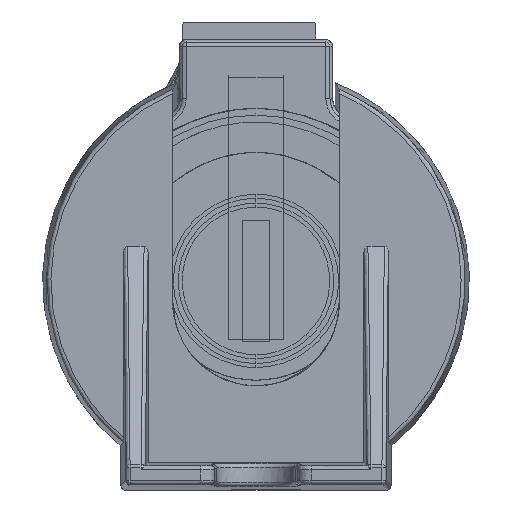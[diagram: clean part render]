
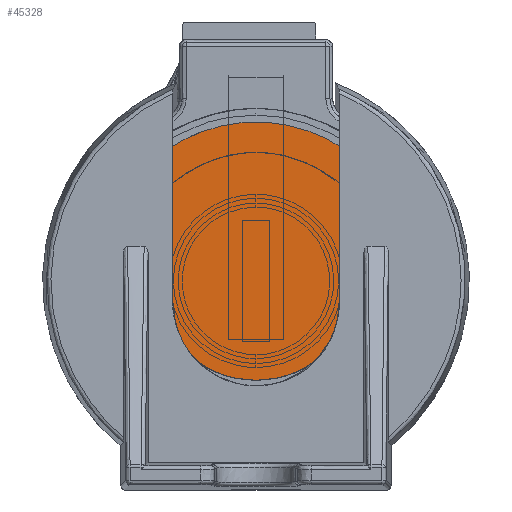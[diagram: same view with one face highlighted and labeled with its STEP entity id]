
A CAD part, left-side view. The second image highlights one B-rep face of the part: STEP entity #45328.
In plain terms, the highlighted free-form (B-spline) face has degree [3, 3] with [4, 4] control points.
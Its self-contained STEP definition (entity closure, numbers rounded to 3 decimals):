
#8392=CARTESIAN_POINT('',(9.38,0.,2.7));
#8393=CARTESIAN_POINT('',(9.38,-0.377,2.695));
#8394=CARTESIAN_POINT('',(9.38,-1.138,2.732));
#8395=CARTESIAN_POINT('',(9.38,-2.323,2.925));
#8396=CARTESIAN_POINT('',(9.38,-3.567,3.254));
#8397=CARTESIAN_POINT('',(9.38,-4.884,3.713));
#8398=CARTESIAN_POINT('',(9.38,-6.064,4.274));
#8399=CARTESIAN_POINT('',(9.38,-7.137,4.932));
#8400=CARTESIAN_POINT('',(9.38,-8.136,5.683));
#8401=CARTESIAN_POINT('',(9.38,-9.356,6.792));
#8402=CARTESIAN_POINT('',(9.38,-10.644,8.345));
#8403=CARTESIAN_POINT('',(9.38,-11.775,10.411));
#8404=CARTESIAN_POINT('',(9.38,-12.572,12.899));
#8405=CARTESIAN_POINT('',(9.38,-12.794,14.986));
#8406=CARTESIAN_POINT('',(9.38,-12.71,16.696));
#8407=CARTESIAN_POINT('',(9.38,-12.508,17.99));
#8408=CARTESIAN_POINT('',(9.38,-12.162,19.287));
#8409=CARTESIAN_POINT('',(9.38,-11.673,20.578));
#8410=CARTESIAN_POINT('',(9.38,-11.108,21.708));
#8411=CARTESIAN_POINT('',(9.38,-10.445,22.739));
#8412=CARTESIAN_POINT('',(9.38,-9.664,23.729));
#8413=CARTESIAN_POINT('',(9.38,-8.775,24.644));
#8414=CARTESIAN_POINT('',(9.38,-7.967,25.368));
#8415=CARTESIAN_POINT('',(9.38,-7.079,26.008));
#8416=CARTESIAN_POINT('',(9.38,-5.952,26.671));
#8417=CARTESIAN_POINT('',(9.38,-4.716,27.261));
#8418=CARTESIAN_POINT('',(9.38,-3.502,27.683));
#8419=CARTESIAN_POINT('',(9.38,-2.509,27.921));
#8420=CARTESIAN_POINT('',(9.38,-1.725,28.059));
#8421=CARTESIAN_POINT('',(9.38,-1.143,28.135));
#8422=CARTESIAN_POINT('',(9.38,-0.567,28.184));
#8423=CARTESIAN_POINT('',(9.38,-0.188,28.198));
#8424=CARTESIAN_POINT('',(9.38,0.,28.2));
#8426=CARTESIAN_POINT('',(9.38,0.,28.2));
#8427=CARTESIAN_POINT('',(9.38,0.188,28.202));
#8428=CARTESIAN_POINT('',(9.38,0.567,28.196));
#8429=CARTESIAN_POINT('',(9.38,1.144,28.151));
#8430=CARTESIAN_POINT('',(9.38,1.731,28.071));
#8431=CARTESIAN_POINT('',(9.38,2.33,27.958));
#8432=CARTESIAN_POINT('',(9.38,2.945,27.811));
#8433=CARTESIAN_POINT('',(9.38,3.787,27.57));
#8434=CARTESIAN_POINT('',(9.38,4.884,27.187));
#8435=CARTESIAN_POINT('',(9.38,6.064,26.626));
#8436=CARTESIAN_POINT('',(9.38,7.137,25.968));
#8437=CARTESIAN_POINT('',(9.38,8.136,25.217));
#8438=CARTESIAN_POINT('',(9.38,9.051,24.385));
#8439=CARTESIAN_POINT('',(9.38,9.871,23.487));
#8440=CARTESIAN_POINT('',(9.38,10.833,22.21));
#8441=CARTESIAN_POINT('',(9.38,11.775,20.489));
#8442=CARTESIAN_POINT('',(9.38,12.572,18.001));
#8443=CARTESIAN_POINT('',(9.38,12.794,15.914));
#8444=CARTESIAN_POINT('',(9.38,12.71,14.204));
#8445=CARTESIAN_POINT('',(9.38,12.508,12.91));
#8446=CARTESIAN_POINT('',(9.38,12.162,11.613));
#8447=CARTESIAN_POINT('',(9.38,11.673,10.322));
#8448=CARTESIAN_POINT('',(9.38,11.108,9.192));
#8449=CARTESIAN_POINT('',(9.38,10.445,8.161));
#8450=CARTESIAN_POINT('',(9.38,9.664,7.171));
#8451=CARTESIAN_POINT('',(9.38,8.775,6.256));
#8452=CARTESIAN_POINT('',(9.38,7.967,5.532));
#8453=CARTESIAN_POINT('',(9.38,6.783,4.679));
#8454=CARTESIAN_POINT('',(9.38,4.705,3.556));
#8455=CARTESIAN_POINT('',(9.38,2.299,2.878));
#8456=CARTESIAN_POINT('',(9.38,0.753,2.71));
#8457=CARTESIAN_POINT('',(9.38,0.,2.7));
#10863=VERTEX_POINT('',#8392);
#10864=VERTEX_POINT('',#8424);
#45307=CARTESIAN_POINT('',(9.38,13.261,2.19));
#45308=CARTESIAN_POINT('',(9.38,4.42,2.19));
#45309=CARTESIAN_POINT('',(9.38,-4.42,2.19));
#45310=CARTESIAN_POINT('',(9.38,-13.261,2.19));
#45311=CARTESIAN_POINT('',(9.38,13.261,11.03));
#45312=CARTESIAN_POINT('',(9.38,4.42,11.03));
#45313=CARTESIAN_POINT('',(9.38,-4.42,11.03));
#45314=CARTESIAN_POINT('',(9.38,-13.261,11.03));
#45315=CARTESIAN_POINT('',(9.38,13.261,19.87));
#45316=CARTESIAN_POINT('',(9.38,4.42,19.87));
#45317=CARTESIAN_POINT('',(9.38,-4.42,19.87));
#45318=CARTESIAN_POINT('',(9.38,-13.261,19.87));
#45319=CARTESIAN_POINT('',(9.38,13.261,28.71));
#45320=CARTESIAN_POINT('',(9.38,4.42,28.71));
#45321=CARTESIAN_POINT('',(9.38,-4.42,28.71));
#45322=CARTESIAN_POINT('',(9.38,-13.261,28.71));
#45323=B_SPLINE_SURFACE_WITH_KNOTS('',3,3,((#45307,#45308,#45309,#45310),
(#45311,#45312,#45313,#45314),(#45315,#45316,#45317,#45318),(#45319,#45320,
#45321,#45322)),.UNSPECIFIED.,.F.,.F.,.F.,(4,4),(4,4),(-13.26,
13.26),(-13.261,13.261),.UNSPECIFIED.);
#45324=ORIENTED_EDGE('',*,*,#45301,.F.);
#45325=ORIENTED_EDGE('',*,*,#45117,.F.);
#45326=EDGE_LOOP('',(#45324,#45325));
#45327=FACE_OUTER_BOUND('',#45326,.F.);
#45328=ADVANCED_FACE('',(#45327),#45323,.F.);
#8425=B_SPLINE_CURVE_WITH_KNOTS('',3,(#8392,#8393,#8394,#8395,#8396,#8397,#8398,
#8399,#8400,#8401,#8402,#8403,#8404,#8405,#8406,#8407,#8408,#8409,#8410,#8411,
#8412,#8413,#8414,#8415,#8416,#8417,#8418,#8419,#8420,#8421,#8422,#8423,#8424),
.UNSPECIFIED.,.F.,.F.,(4,1,1,1,1,1,1,1,1,1,1,1,1,1,1,1,1,1,1,1,1,1,1,1,1,1,1,1,
1,1,4),(0.,0.031,0.063,0.094,0.125,0.156,0.188,0.219,
0.25,0.313,0.375,0.438,0.5,0.531,0.563,0.594,0.625,
0.656,0.688,0.719,0.75,0.781,0.813,0.844,0.875,
0.906,0.938,0.953,0.969,0.984,1.),.UNSPECIFIED.);
#8458=B_SPLINE_CURVE_WITH_KNOTS('',3,(#8426,#8427,#8428,#8429,#8430,#8431,#8432,
#8433,#8434,#8435,#8436,#8437,#8438,#8439,#8440,#8441,#8442,#8443,#8444,#8445,
#8446,#8447,#8448,#8449,#8450,#8451,#8452,#8453,#8454,#8455,#8456,#8457),
.UNSPECIFIED.,.F.,.F.,(4,1,1,1,1,1,1,1,1,1,1,1,1,1,1,1,1,1,1,1,1,1,1,1,1,1,1,1,
1,4),(0.,0.016,0.031,0.047,0.063,0.078,0.094,0.125,
0.156,0.188,0.219,0.25,0.281,0.313,0.375,0.438,0.5,
0.531,0.563,0.594,0.625,0.656,0.688,0.719,0.75,
0.781,0.813,0.875,0.938,1.),.UNSPECIFIED.);
#45117=EDGE_CURVE('',#10864,#10863,#8458,.T.);
#45301=EDGE_CURVE('',#10863,#10864,#8425,.T.);
